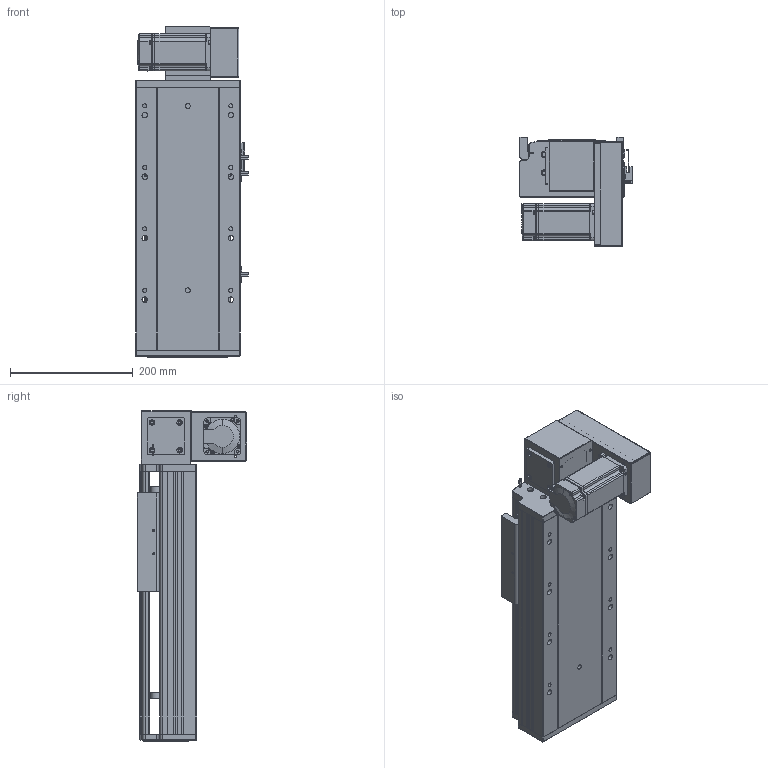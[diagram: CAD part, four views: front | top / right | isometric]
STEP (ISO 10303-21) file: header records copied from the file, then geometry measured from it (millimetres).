
FILE_DESCRIPTION (( 'STEP AP203' ), '1' );
FILE_NAME ('RY170-T-300-DR-P400W.SLDASM_150.step', '2021-03-01T08:22:25', ( '盈信电脑' ), ( '东莞市道滘镇水果街19号' ), 'SwSTEP 2.0', 'SolidWorks 2012', '' );
FILE_SCHEMA (( 'CONFIG_CONTROL_DESIGN' ));
Length unit declared in the file: millimetre
Products named in the file (19): RY170-T肮祭湍揤踡輸2; RY170-T肮祭湍揤踡輸1; RY170肮祭謫萇儂欶; RY170同步轮电机安装板(400W); RY170肮祭謫ヶ裔啣; RY170翋肮祭謫釱; 覜茼ん672; RY170外置感应片(200共用）; RY170綴裔啣; RY170-T-300肮祭謫倰第菁釱-DR_150; RY170肮祭湍臏賑輸; RY170-T-300肮祭謫倰第裔啣-DR_150; RY170-T-300-DR-P400W.SLDASM_150; RY170-T-呴雄粣揤踡啣; 15; 滅袉蝶18-10; RY120-T主同步轮轴承压盖; RY170-T蹟翐M4; RY170-T肮祭謫裔啣
Assembly tree (23 placements, depth 2):
  RY170-T-300-DR-P400W.SLDASM_150
    RY170-T-300肮祭謫倰第菁釱-DR_150
    RY170肮祭湍臏賑輸
    RY170-T-300肮祭謫倰第裔啣-DR_150
    RY170綴裔啣
    覜茼ん672  x3
    RY170外置感应片(200共用）
    RY170肮祭謫ヶ裔啣
    RY170翋肮祭謫釱
    RY170同步轮电机安装板(400W)
    RY170肮祭謫萇儂欶
    RY170-T肮祭湍揤踡輸1  x2
    RY170-T肮祭湍揤踡輸2  x2
    RY120-T主同步轮轴承压盖
    RY170-T肮祭謫裔啣
    RY170-T蹟翐M4
    滅袉蝶18-10  x2
    RY170-T-呴雄粣揤踡啣
    15
Bounding box: 183.7 x 178 x 538 mm (x, y, z)
Volume: 3372994.1 mm3; surface area: 1090048.4 mm2
Topology: 23 solids, 23 shells, 2550 faces, 6994 edges, 4521 vertices
Faces by surface type: plane 1258, cylinder 1082, cone 180, bspline 30
Entity records: 74309 total; most frequent: CARTESIAN_POINT 15710, ORIENTED_EDGE 11808, DIRECTION 11770, EDGE_CURVE 5904, AXIS2_PLACEMENT_3D 4091, VERTEX_POINT 3877, VECTOR 3588, LINE 3588
